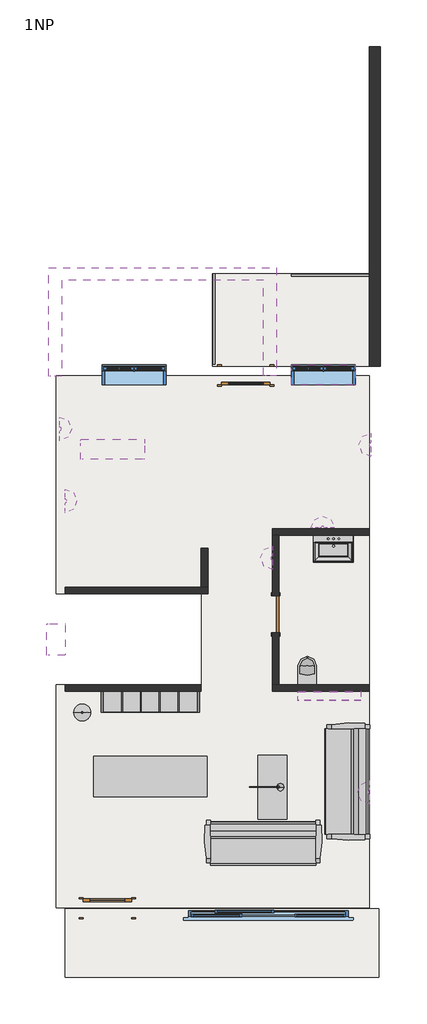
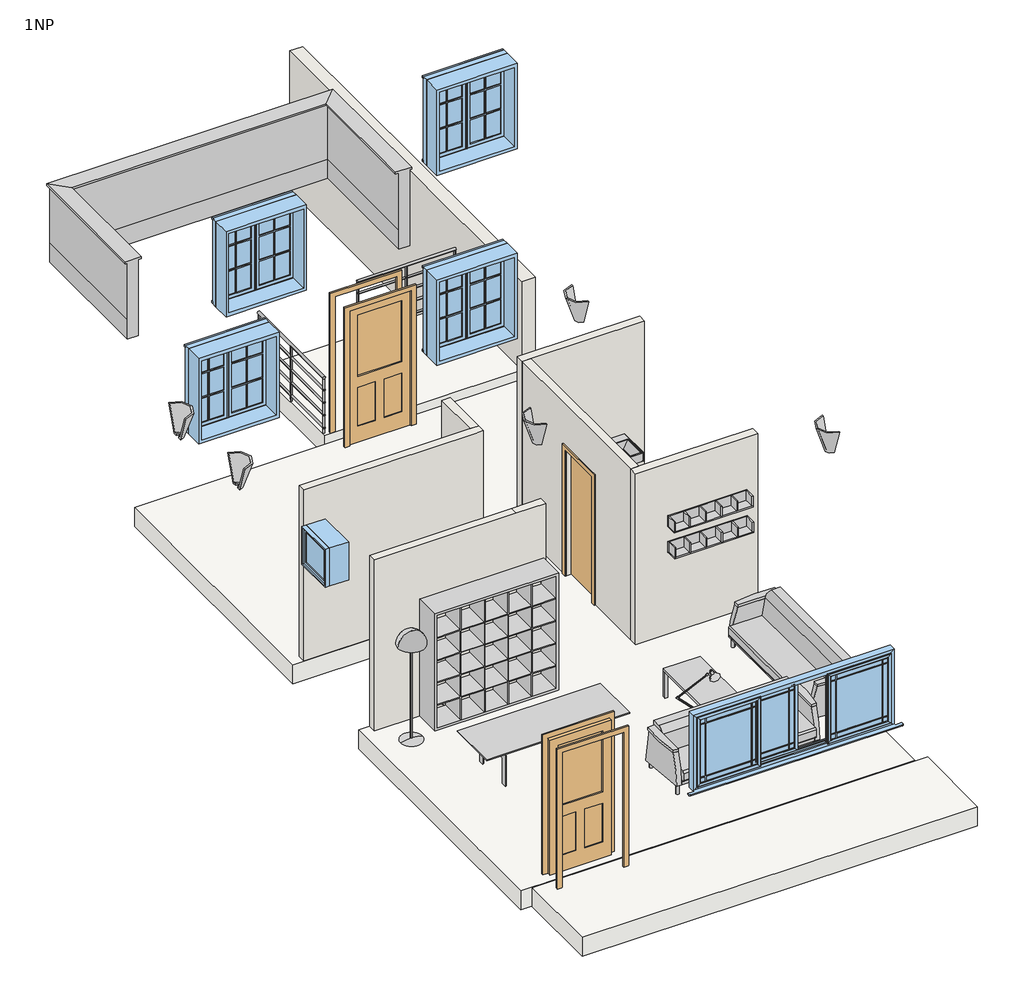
# One storey, incomplete: 8 light fixtures, 7 furniture elements, 7 walls, 6 windows, 3 doors, 3 slabs, 2 flow terminals, 2 railings, 1 proxy.
"""IFC4 building model written with IfcOpenShell, lengths in millimetres."""

from ifc_helpers import new_model, si_unit, frame, origin, origin_with_axes, place, context, project, spatial, polyline, outline, extrude, faceted_brep, transform, mapped, element, save
from components import m_single_decorative_1_0914_x_2134mm_a31491ec, standard_door_sd_700x2200_88b99a9a, flow_terminal_530_x_350mm_1a9316c8, flow_terminal_650_x_500mm_feced0cd, furniture_920b33d8, furniture_7eedec44, furniture_45a1625c, furniture_0762_x_2134mm_3327233b, furniture_2134mm_67ee6dc0, furniture_2134mm_7fff81ef, lack_120x55cm_a48caeea, light_fixture_bd9db648, light_fixture_16639799, light_fixture_4844b612, light_fixture_da5f3668, light_fixture_c75c11d5, light_fixture_c6ae0c23, railing_900mm_pipe_2_fe6058d7, railing_900mm_pipe_2_0036318b, window_61b1430e, window_8f0d36a4, m_case_doubleall_bar_1200_x_1350mm_d246b42b, m_fixed1_600_x_600mm_7c1dbeb3

model = new_model("IFC4")

# Units and contexts
model_context = context("Model", 3, world=origin())
ifc_project = project(units=[si_unit("LENGTHUNIT", "METRE", prefix="MILLI")], contexts=[model_context])

# Site, building, storey
site = spatial("IfcSite", under=ifc_project)
building = spatial("IfcBuilding", under=site)
storey = spatial("IfcBuildingStorey", under=building, Name="1NP", Elevation=0.0)

# Proxy
placement = place(None, origin())
element("IfcBuildingElementProxy", 1, Name="Parapetto", ObjectType="Parapetto", at=placement, inside=storey, context=model_context, shape_type="Brep", body=[
    faceted_brep([(-4001.8266822, 4391.7328473, 2700.0), (-3841.8266822, 4391.7328473, 2700.0), (-3841.8266822, 4391.7328473, 3000.0), (-3841.8266822, 4391.7328473, 3900.0), (-3811.8266822, 4391.7328473, 3900.0), (-3811.8266822, 4391.7328473, 3930.0), (-4051.8266822, 4391.7328473, 3930.0), (-4051.8266822, 4391.7328473, 3900.0), (-4001.8266822, 4391.7328473, 3900.0), (-4001.8266822, 4391.7328473, 3000.0), (-4001.8266822, 6234.7328473, 2700.0), (-3841.8266822, 6394.7328473, 2700.0), (-3841.8266822, 4573.2328473, 2700.0), (-3841.8266822, 6394.7328473, 3000.0), (-3841.8266822, 6394.7328473, 3900.0), (-3811.8266822, 6424.7328473, 3900.0), (-3811.8266822, 6424.7328473, 3930.0), (-4051.8266822, 6184.7328473, 3930.0), (-4051.8266822, 6184.7328473, 3900.0), (-4001.8266822, 6234.7328473, 3900.0), (-4001.8266822, 6234.7328473, 3000.0), (-7898.3266822, 6234.7328473, 2700.0), (-8058.3266822, 6394.7328473, 2700.0), (-8058.3266822, 6394.7328473, 3000.0), (-8058.3266822, 6394.7328473, 3900.0), (-8088.3266822, 6424.7328473, 3900.0), (-8088.3266822, 6424.7328473, 3930.0), (-7848.3266822, 6184.7328473, 3930.0), (-7848.3266822, 6184.7328473, 3900.0), (-7898.3266822, 6234.7328473, 3900.0), (-7898.3266822, 6234.7328473, 3000.0), (-7898.3266822, 4384.7328473, 2700.0), (-7898.3266822, 4384.7328473, 3000.0), (-7898.3266822, 4384.7328473, 3900.0), (-7848.3266822, 4384.7328473, 3900.0), (-7848.3266822, 4384.7328473, 3930.0), (-8088.3266822, 4384.7328473, 3930.0), (-8088.3266822, 4384.7328473, 3900.0), (-8058.3266822, 4384.7328473, 3900.0), (-8058.3266822, 4384.7328473, 3000.0), (-8058.3266822, 4384.7328473, 2700.0)], [[[0, 1, 2, 3, 4, 5, 6, 7, 8, 9]], [[1, 0, 10, 11, 12]], [[2, 1, 12, 11, 13]], [[3, 2, 13, 14]], [[4, 3, 14, 15]], [[5, 4, 15, 16]], [[6, 5, 16, 17]], [[7, 6, 17, 18]], [[8, 7, 18, 19]], [[9, 8, 19, 20]], [[0, 9, 20, 10]], [[11, 10, 21, 22]], [[13, 11, 22, 23]], [[14, 13, 23, 24]], [[15, 14, 24, 25]], [[16, 15, 25, 26]], [[17, 16, 26, 27]], [[18, 17, 27, 28]], [[19, 18, 28, 29]], [[20, 19, 29, 30]], [[10, 20, 30, 21]], [[31, 32, 33, 34, 35, 36, 37, 38, 39, 40]], [[22, 21, 31, 40]], [[23, 22, 40, 39]], [[24, 23, 39, 38]], [[25, 24, 38, 37]], [[26, 25, 37, 36]], [[27, 26, 36, 35]], [[28, 27, 35, 34]], [[29, 28, 34, 33]], [[30, 29, 33, 32]], [[21, 30, 32, 31]]]),
])

# Doors
m_single_decorative_1_0914_x_2134mm_shape = m_single_decorative_1_0914_x_2134mm_a31491ec(model_context)
element("IfcDoor", 2, ObjectType="M_Single-Decorative 1 : 0914 x 2134mm", at=placement, inside=storey, context=model_context, shape_type="MappedRepresentation", body=[
    mapped(m_single_decorative_1_0914_x_2134mm_shape, transform((-6986.8266822, -5601.7671527, 0.0), x_axis=(-1.0, 0.0, 0.0), y_axis=(0.0, -1.0, 0.0), z_axis=(0.0, 0.0, 1.0))),
])
element("IfcDoor", 3, ObjectType="M_Single-Decorative 1 : 0914 x 2134mm", at=placement, inside=storey, context=model_context, shape_type="MappedRepresentation", body=[
    mapped(m_single_decorative_1_0914_x_2134mm_shape, transform((-4386.8266822, 4398.2328473, 0.0), x_axis=(1.0, 0.0, 0.0), y_axis=(0.0, 1.0, 0.0), z_axis=(0.0, 0.0, 1.0))),
])
standard_door_sd_700x2200_shape = standard_door_sd_700x2200_88b99a9a(model_context)
element("IfcDoor", 4, ObjectType="Standard Door : SD 700x2200", at=placement, inside=storey, context=model_context, shape_type="MappedRepresentation", body=[
    mapped(standard_door_sd_700x2200_shape, transform((-3824.3266822, -84.3406402, 0.0), x_axis=(0.0, -1.0, 0.0), y_axis=(1.0, 0.0, 0.0), z_axis=(0.0, 0.0, 1.0))),
])

# Flow terminals
flow_terminal_530_x_350mm_shape = flow_terminal_530_x_350mm_1a9316c8(model_context)
element("IfcFlowTerminal", 5, ObjectType="WC závěsné : 530 x 350mm", at=placement, inside=storey, context=model_context, shape_type="MappedRepresentation", body=[
    mapped(flow_terminal_530_x_350mm_shape, transform((-3231.7769186, -1401.8406402, 0.0), x_axis=(-1.0, 0.0, 0.0), y_axis=(0.0, -1.0, 0.0), z_axis=(0.0, 0.0, 1.0))),
])
flow_terminal_650_x_500mm_shape = flow_terminal_650_x_500mm_feced0cd(model_context)
element("IfcFlowTerminal", 6, ObjectType="Umývadlo závěsné : 650 x 500mm", at=placement, inside=storey, context=model_context, shape_type="MappedRepresentation", body=[
    mapped(flow_terminal_650_x_500mm_shape, transform((-2612.3578922, 1460.6593598, 155.4231918), x_axis=(-1.0, 0.0, 0.0), y_axis=(0.0, -1.0, 0.0), z_axis=(0.0, 0.0, 1.0))),
])

# Furniture
furniture_shape = furniture_920b33d8(model_context)
element("IfcFurniture", 7, ObjectType="Police nástěnná : Benno Mensola", at=placement, inside=storey, context=model_context, shape_type="MappedRepresentation", body=[
    mapped(furniture_shape, transform((-2836.6069087, -1464.3406402, -400.0), x_axis=(-1.0, 0.0, 0.0), y_axis=(0.0, -1.0, 0.0), z_axis=(0.0, 0.0, 1.0))),
])
furniture_2_shape = furniture_7eedec44(model_context)
element("IfcFurniture", 8, ObjectType="Police nástěnná : Benno Mensola", at=placement, inside=storey, context=model_context, shape_type="MappedRepresentation", body=[
    mapped(furniture_2_shape, transform((-2836.6069087, -1464.3406402, 0.0), x_axis=(-1.0, 0.0, 0.0), y_axis=(0.0, -1.0, 0.0), z_axis=(0.0, 0.0, 1.0))),
])
furniture_3_shape = furniture_45a1625c(model_context)
element("IfcFurniture", 9, ObjectType="Knihovna IKEA : Expedit Libreria 185x185x39", at=placement, inside=storey, context=model_context, shape_type="MappedRepresentation", body=[
    mapped(furniture_3_shape, transform((-5936.2729468, -1653.1589206, 0.0), x_axis=(-1.0000000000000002, 0.0, 0.0), y_axis=(0.0, -1.0000000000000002, 0.0), z_axis=(0.0, 0.0, 1.0))),
])
furniture_0762_x_2134mm_shape = furniture_0762_x_2134mm_3327233b(model_context)
element("IfcFurniture", 10, ObjectType="Pohovka_Tavolo-Pranzo : 0762 x 2134mm", at=placement, inside=storey, context=model_context, shape_type="MappedRepresentation", body=[
    mapped(furniture_0762_x_2134mm_shape, transform((-6201.5924488, -3222.051718, 0.0), x_axis=(1.0, 0.0, 0.0), y_axis=(0.0, 1.0, 0.0), z_axis=(0.0, 0.0, 1.0))),
])
furniture_2134mm_shape = furniture_2134mm_67ee6dc0(model_context)
element("IfcFurniture", 11, ObjectType="Pohovka_Poltrona-Pensi : 2134mm", at=placement, inside=storey, context=model_context, shape_type="MappedRepresentation", body=[
    mapped(furniture_2134mm_shape, transform((-4340.4329322, -4649.7308041, 0.0), x_axis=(1.0, 0.0, 0.0), y_axis=(0.0, 1.0, 0.0), z_axis=(0.0, 0.0, 1.0))),
])
furniture_2134mm_2_shape = furniture_2134mm_7fff81ef(model_context)
element("IfcFurniture", 12, ObjectType="Pohovka_Poltrona-Pensi : 2134mm", at=placement, inside=storey, context=model_context, shape_type="MappedRepresentation", body=[
    mapped(furniture_2134mm_2_shape, transform((-2760.4365182, -3505.4468902, 0.0), x_axis=(0.0, 1.0, 0.0), y_axis=(-1.0, 0.0, 0.0), z_axis=(0.0, 0.0, 1.0))),
])
lack_120x55cm_shape = lack_120x55cm_a48caeea(model_context)
element("IfcFurniture", 13, ObjectType="KonferencniStolek : Lack 120x55cm", at=placement, inside=storey, context=model_context, shape_type="MappedRepresentation", body=[
    mapped(lack_120x55cm_shape, transform((-3537.7285634, -2966.216477, 0.0), x_axis=(1.0, 0.0, 0.0), y_axis=(0.0, 1.0, 0.0), z_axis=(0.0, 0.0, 1.0))),
])

# Light fixtures
light_fixture_shape = light_fixture_bd9db648(model_context)
element("IfcLightFixture", 14, ObjectType="M_Lamapada da pavimento - Semisferica : 100 watt Incandescente", at=placement, inside=storey, context=model_context, shape_type="MappedRepresentation", body=[
    mapped(light_fixture_shape, transform((-7461.8266822, -1926.8406402, 0.0), x_axis=(1.0, 0.0, 0.0), y_axis=(0.0, 1.0, 0.0), z_axis=(0.0, 0.0, 1.0))),
])
light_fixture_2_shape = light_fixture_16639799(model_context)
element("IfcLightFixture", 15, ObjectType="M_Applique : 100 watt Incandescente", at=placement, inside=storey, context=model_context, shape_type="MappedRepresentation", body=[
    mapped(light_fixture_2_shape, transform((-2940.6210153, 1460.6593598, 0.0), x_axis=(1.0, 0.0, 0.0), y_axis=(0.0, 1.0, 0.0), z_axis=(0.0, 0.0, 1.0))),
])
element("IfcLightFixture", 16, ObjectType="M_Applique : 100 watt Incandescente", at=placement, inside=storey, context=model_context, shape_type="MappedRepresentation", body=[
    mapped(light_fixture_2_shape, transform((-7958.3266822, 3398.5271804, 0.0), x_axis=(0.0, -1.0, 0.0), y_axis=(1.0, 0.0, 0.0), z_axis=(0.0, 0.0, 1.0))),
])
element("IfcLightFixture", 17, ObjectType="M_Applique : 100 watt Incandescente", at=placement, inside=storey, context=model_context, shape_type="MappedRepresentation", body=[
    mapped(light_fixture_2_shape, transform((-1961.8266822, 3098.5271804, 0.0), x_axis=(0.0, 1.0, 0.0), y_axis=(-1.0, 0.0, 0.0), z_axis=(0.0, 0.0, 1.0))),
])
light_fixture_3_shape = light_fixture_4844b612(model_context)
element("IfcLightFixture", 18, ObjectType="M_Lampada da tavolo Luxo : 100 watt Incandescente", at=placement, inside=storey, context=model_context, shape_type="MappedRepresentation", body=[
    mapped(light_fixture_3_shape, transform((-3990.4266822, -3326.8406402, 0.0), x_axis=(1.0, 0.0, 0.0), y_axis=(0.0, 1.0, 0.0), z_axis=(0.0, 0.0, 1.0))),
])
light_fixture_4_shape = light_fixture_da5f3668(model_context)
element("IfcLightFixture", 19, ObjectType="M_Applique : 100 watt Incandescente", at=placement, inside=storey, context=model_context, shape_type="MappedRepresentation", body=[
    mapped(light_fixture_4_shape, transform((-1961.8266822, -3426.8406402, 1900.0), x_axis=(0.0, 1.0, 0.0), y_axis=(-1.0, 0.0, 0.0), z_axis=(0.0, 0.0, 1.0))),
])
light_fixture_5_shape = light_fixture_c75c11d5(model_context)
element("IfcLightFixture", 20, ObjectType="M_Applique : 100 watt Incandescente", at=placement, inside=storey, context=model_context, shape_type="MappedRepresentation", body=[
    mapped(light_fixture_5_shape, transform((-3824.3266822, 976.9536929, 0.0), x_axis=(0.0, 1.0, 0.0), y_axis=(-1.0, 0.0, 0.0), z_axis=(0.0, 0.0, 1.0))),
])
light_fixture_6_shape = light_fixture_c6ae0c23(model_context)
element("IfcLightFixture", 21, ObjectType="M_Applique : 100 watt Incandescente", at=placement, inside=storey, context=model_context, shape_type="MappedRepresentation", body=[
    mapped(light_fixture_6_shape, transform((-7958.3266822, 2044.3650267, 0.0), x_axis=(0.0, -1.0, 0.0), y_axis=(1.0, 0.0, 0.0), z_axis=(0.0, 0.0, 1.0))),
])

# Railings
railing_900mm_pipe_2_shape = railing_900mm_pipe_2_fe6058d7(model_context)
element("IfcRailing", 22, ObjectType="900mm Pipe 2", at=placement, inside=storey, context=model_context, shape_type="MappedRepresentation", body=[
    mapped(railing_900mm_pipe_2_shape, transform((0.0, 0.0, 0.0), x_axis=(1.0, 0.0, 0.0), y_axis=(0.0, 1.0, 0.0), z_axis=(0.0, 0.0, 1.0))),
])
railing_900mm_pipe_2_2_shape = railing_900mm_pipe_2_0036318b(model_context)
element("IfcRailing", 23, ObjectType="900mm Pipe 2", at=placement, inside=storey, context=model_context, shape_type="MappedRepresentation", body=[
    mapped(railing_900mm_pipe_2_2_shape, transform((0.0, 0.0, 0.0), x_axis=(1.0, 0.0, 0.0), y_axis=(0.0, 1.0, 0.0), z_axis=(0.0, 0.0, 1.0))),
])

# Slabs
element("IfcSlab", 24, ObjectType="Domestic Slab", at=placement, inside=storey, context=model_context, shape_type="Brep", body=[
    faceted_brep([(-7948.3266822, 298.1593598, -300.0), (-7948.3266822, 4391.7328473, -300.0), (-2061.8266822, 4391.7328473, -300.0), (-2061.8266822, 4223.2328473, -300.0), (-2061.8266822, -5426.7671527, -300.0), (-2061.8266822, -5595.2671527, -300.0), (-7948.3266822, -5595.2671527, -300.0), (-7948.3266822, -1401.8406402, -300.0), (-5223.3266822, -1401.8406402, -300.0), (-5223.3266822, 298.1593598, -300.0), (-7948.3266822, 298.1593598, 0.0), (-5223.3266822, 298.1593598, 0.0), (-5223.3266822, -1401.8406402, 0.0), (-7948.3266822, -1401.8406402, 0.0), (-7948.3266822, -5595.2671527, 0.0), (-7443.8266822, -5595.2671527, 0.0), (-6529.8266822, -5595.2671527, 0.0), (-2061.8266822, -5595.2671527, 0.0), (-2061.8266822, -5426.7671527, 0.0), (-2061.8266822, 4223.2328473, 0.0), (-2061.8266822, 4391.7328473, 0.0), (-3929.8266822, 4391.7328473, 0.0), (-4843.8266822, 4391.7328473, 0.0), (-7948.3266822, 4391.7328473, 0.0)], [[[0, 1, 2, 3, 4, 5, 6, 7, 8, 9]], [[10, 11, 12, 13, 14, 15, 16, 17, 18, 19, 20, 21, 22, 23]], [[1, 0, 10, 23]], [[2, 1, 23, 22, 21, 20]], [[5, 4, 3, 2, 20, 19, 18, 17]], [[6, 5, 17, 16, 15, 14]], [[7, 6, 14, 13]], [[8, 7, 13, 12]], [[9, 8, 12, 11]], [[0, 9, 11, 10]]]),
])
element("IfcSlab", 25, ObjectType="Domestic Slab", at=placement, inside=storey, context=model_context, shape_type="Brep", body=[
    faceted_brep([(-1881.8266822, -6901.7671527, -300.0), (-2061.8266822, -6901.7671527, -300.0), (-7783.3266822, -6901.7671527, -300.0), (-7783.3266822, -5610.7671527, -300.0), (-1881.8266822, -5610.7671527, -300.0), (-1881.8266822, -6901.7671527, 0.0), (-1881.8266822, -5610.7671527, 0.0), (-7783.3266822, -5610.7671527, 0.0), (-7783.3266822, -6901.7671527, 0.0), (-2061.8266822, -6901.7671527, 0.0)], [[[0, 1, 2, 3, 4]], [[5, 6, 7, 8, 9]], [[2, 1, 0, 5, 9, 8]], [[3, 2, 8, 7]], [[4, 3, 7, 6]], [[0, 4, 6, 5]]]),
])
element("IfcSlab", 26, ObjectType="Generic 300mm", at=placement, inside=storey, context=model_context, shape_type="SweptSolid", body=[
    extrude(outline(polyline([(-2061.8266822, 6313.2328473), (-2061.8266822, 4573.2328473), (-5011.8266822, 4573.2328473), (-5011.8266822, 6313.2328473), (-2061.8266822, 6313.2328473)])), frame((0.0, 0.0, -300.0), z_axis=(0.0, 0.0, 1.0), x_axis=(1.0, 0.0, 0.0)), (0.0, 0.0, 1.0), 300.0),
])

# Walls
element("IfcWall", 27, ObjectType="Generic - 200mm", at=placement, inside=storey, context=model_context, shape_type="SweptSolid", body=[
    extrude(outline(polyline([(4573.2328473, -800.0), (4573.2328473, 1400.0), (10576.7328473, 1400.0), (10576.7328473, 0.0), (10573.2328473, 0.0), (10573.2328473, -800.0), (4573.2328473, -800.0)])), frame((-2061.8266822, 0.0, 0.0), z_axis=(1.0, 0.0, 0.0), x_axis=(0.0, 1.0, 0.0)), (0.0, 0.0, 1.0), 200.0),
])
element("IfcWall", 28, ObjectType="Interior wall", at=placement, inside=storey, context=model_context, shape_type="SweptSolid", body=[
    extrude(outline(polyline([(0.0, -7783.3266822), (0.0, -5226.8266822), (2700.0, -5226.8266822), (2700.0, -5661.8266822), (2700.0, -7783.3266822), (0.0, -7783.3266822)])), frame((0.0, -1526.8406402, 0.0), z_axis=(0.0, 1.0, 0.0), x_axis=(0.0, 0.0, 1.0)), (0.0, 0.0, 1.0), 125.0),
])
element("IfcWall", 29, ObjectType="Interior wall", at=placement, inside=storey, context=model_context, shape_type="Brep", body=[
    faceted_brep([(-5101.8266822, 423.1593598, 0.0), (-5226.8266822, 423.1593598, 0.0), (-7783.3266822, 423.1593598, 0.0), (-7783.3266822, 423.1593598, 2700.0), (-5226.8266822, 423.1593598, 2700.0), (-5101.8266822, 423.1593598, 2700.0), (-5101.8266822, 298.1593598, 0.0), (-5101.8266822, 298.1593598, 2700.0), (-5226.8266822, 298.1593598, 2700.0), (-7783.3266822, 298.1593598, 2700.0), (-7783.3266822, 298.1593598, 0.0)], [[[0, 1, 2, 3, 4, 5]], [[6, 7, 8, 9, 10]], [[2, 1, 0, 6, 10]], [[0, 5, 7, 6]], [[3, 2, 10, 9]], [[5, 4, 3, 9, 8, 7]]]),
])
element("IfcWall", 30, ObjectType="Interior wall", at=placement, inside=storey, context=model_context, shape_type="SweptSolid", body=[
    extrude(outline(polyline([(-5101.8266822, 1160.6593598), (-5101.8266822, 423.1593598), (-5226.8266822, 423.1593598), (-5226.8266822, 1160.6593598), (-5101.8266822, 1160.6593598)])), origin_with_axes(), (0.0, 0.0, 1.0), 2700.0),
])
element("IfcWall", 31, ObjectType="Interior wall", at=placement, inside=storey, context=model_context, shape_type="Brep", body=[
    faceted_brep([(-2061.8266822, -1401.8406402, 0.0), (-3761.8266822, -1401.8406402, 0.0), (-3886.8266822, -1401.8406402, 0.0), (-3886.8266822, -1401.8406402, 2700.0), (-3761.8266822, -1401.8406402, 2700.0), (-2061.8266822, -1401.8406402, 2700.0), (-2061.8266822, -1526.8406402, 0.0), (-2061.8266822, -1526.8406402, 2700.0), (-3886.8266822, -1526.8406402, 2700.0), (-3886.8266822, -1526.8406402, 0.0)], [[[0, 1, 2, 3, 4, 5]], [[6, 7, 8, 9]], [[2, 1, 0, 6, 9]], [[3, 2, 9, 8]], [[0, 5, 7, 6]], [[5, 4, 3, 8, 7]]]),
])
element("IfcWall", 32, ObjectType="Interior wall", at=placement, inside=storey, context=model_context, shape_type="Brep", body=[
    faceted_brep([(-3886.8266822, 1398.1593598, 0.0), (-3761.8266822, 1398.1593598, 0.0), (-2061.8266822, 1398.1593598, 0.0), (-2061.8266822, 1398.1593598, 2700.0), (-3761.8266822, 1398.1593598, 2700.0), (-3886.8266822, 1398.1593598, 2700.0), (-3886.8266822, 1523.1593598, 0.0), (-3886.8266822, 1523.1593598, 2700.0), (-2061.8266822, 1523.1593598, 2700.0), (-2061.8266822, 1523.1593598, 0.0)], [[[0, 1, 2, 3, 4, 5]], [[6, 7, 8, 9]], [[2, 1, 0, 6, 9]], [[0, 5, 7, 6]], [[3, 2, 9, 8]], [[5, 4, 3, 8, 7]]]),
])
element("IfcWall", 33, ObjectType="Interior wall", at=placement, inside=storey, context=model_context, shape_type="Brep", body=[
    faceted_brep([(-3761.8266822, -1401.8406402, 0.0), (-3761.8266822, -434.3406402, 0.0), (-3761.8266822, -434.3406402, 2000.0), (-3761.8266822, 265.6593598, 2000.0), (-3761.8266822, 265.6593598, 0.0), (-3761.8266822, 1398.1593598, 0.0), (-3761.8266822, 1398.1593598, 2700.0), (-3761.8266822, -1401.8406402, 2700.0), (-3886.8266822, -434.3406402, 2000.0), (-3886.8266822, -434.3406402, 0.0), (-3886.8266822, -1401.8406402, 0.0), (-3886.8266822, -1401.8406402, 2700.0), (-3886.8266822, -601.8406402, 2700.0), (-3886.8266822, 1398.1593598, 2700.0), (-3886.8266822, 1398.1593598, 0.0), (-3886.8266822, 265.6593598, 0.0), (-3886.8266822, 265.6593598, 2000.0)], [[[0, 1, 2, 3, 4, 5, 6, 7]], [[8, 9, 10, 11, 12, 13, 14, 15, 16]], [[10, 9, 1, 0]], [[15, 14, 5, 4]], [[0, 7, 11, 10]], [[6, 5, 14, 13]], [[7, 6, 13, 12, 11]], [[2, 1, 9, 8]], [[3, 2, 8, 16]], [[4, 3, 16, 15]]]),
])

# Windows
window_shape = window_61b1430e(model_context)
window_2_shape = window_8f0d36a4(model_context)
element("IfcWindow", 34, ObjectType="IT_Finestra scorrevole 3 ante con listelli tipo 2 : IT_Finestra scorrevole 3 ante con listelli tipo 2", at=placement, inside=storey, context=model_context, shape_type="MappedRepresentation", body=[
    mapped(window_shape, transform((-3990.6557142, -5601.7671527, 0.0), x_axis=(-1.0, 0.0, 0.0), y_axis=(0.0, -1.0, 0.0), z_axis=(0.0, 0.0, 1.0))),
    mapped(window_2_shape, transform((-3990.6557142, -5601.7671527, 0.0), x_axis=(-1.0, 0.0, 0.0), y_axis=(0.0, -1.0, 0.0), z_axis=(0.0, 0.0, 1.0))),
])
m_case_doubleall_bar_1200_x_1350mm_shape = m_case_doubleall_bar_1200_x_1350mm_d246b42b(model_context)
element("IfcWindow", 35, ObjectType="M_Case DoubleAll Bar : 1200 x 1350mm", at=placement, inside=storey, context=model_context, shape_type="MappedRepresentation", body=[
    mapped(m_case_doubleall_bar_1200_x_1350mm_shape, transform((-2929.3266822, 4443.2601532, -115.0), x_axis=(1.0, 0.0, 0.0), y_axis=(0.0, 1.0, 0.0), z_axis=(0.0, 0.0, 1.0))),
])
element("IfcWindow", 36, ObjectType="M_Case DoubleAll Bar : 1200 x 1350mm", at=placement, inside=storey, context=model_context, shape_type="MappedRepresentation", body=[
    mapped(m_case_doubleall_bar_1200_x_1350mm_shape, transform((-6486.8266822, 4443.2601532, -115.0), x_axis=(1.0, 0.0, 0.0), y_axis=(0.0, 1.0, 0.0), z_axis=(0.0, 0.0, 1.0))),
])
element("IfcWindow", 37, ObjectType="M_Case DoubleAll Bar : 1200 x 1350mm", at=placement, inside=storey, context=model_context, shape_type="MappedRepresentation", body=[
    mapped(m_case_doubleall_bar_1200_x_1350mm_shape, transform((-2929.3266822, 4443.2601532, 2885.0), x_axis=(1.0, 0.0, 0.0), y_axis=(0.0, 1.0, 0.0), z_axis=(0.0, 0.0, 1.0))),
])
element("IfcWindow", 38, ObjectType="M_Case DoubleAll Bar : 1200 x 1350mm", at=placement, inside=storey, context=model_context, shape_type="MappedRepresentation", body=[
    mapped(m_case_doubleall_bar_1200_x_1350mm_shape, transform((-6886.8266822, 3043.2601532, 2885.0), x_axis=(1.0, 0.0, 0.0), y_axis=(0.0, 1.0, 0.0), z_axis=(0.0, 0.0, 1.0))),
])
m_fixed1_600_x_600mm_shape = m_fixed1_600_x_600mm_7c1dbeb3(model_context)
element("IfcWindow", 39, ObjectType="M_Fixed1 : 600 x 600mm", at=placement, inside=storey, context=model_context, shape_type="MappedRepresentation", body=[
    mapped(m_fixed1_600_x_600mm_shape, transform((-7945.3266822, -556.8406402, 1083.8025508), x_axis=(0.0, 1.0, 0.0), y_axis=(-1.0, 0.0, 0.0), z_axis=(0.0, 0.0, 1.0))),
])

save(model, "model.ifc")
